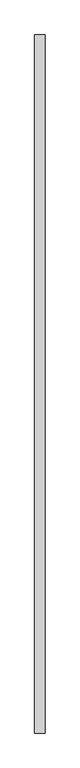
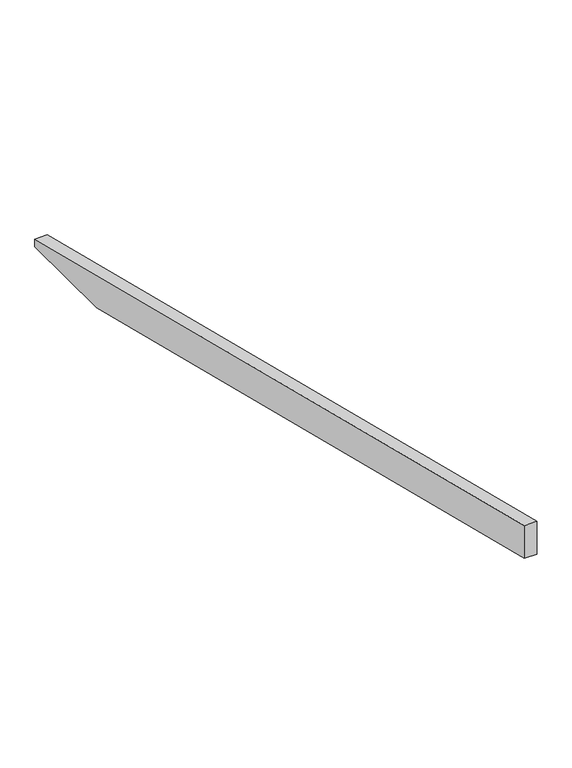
"""IFC4 building model written with IfcOpenShell, lengths in millimetres: proxy geometry, Modelos genéricos 54 : Modelos genéricos 12."""

from ifc_helpers import new_model, si_unit, frame, origin, place, context, project, spatial, polyline, outline, extrude, source, transform, mapped, element, save


def generic_models_b1f8fa7e(model_context):
    return source(origin(), model_context, "Body", "SweptSolid", [
        extrude(outline(polyline([(6078.6238165, 3197.4798401), (6078.6238165, 3160.0), (5567.5767654, 3160.0), (2018.6238165, 4044.8533509), (2018.6238165, 4209.7515316), (6078.6238165, 3197.4798401)])), frame((-5376.5527533, 0.0, 0.0), z_axis=(1.0, 0.0, 0.0), x_axis=(0.0, 1.0, 0.0)), (0.0, 0.0, 1.0), 60.0),
    ])


if __name__ == "__main__":
    model = new_model("IFC4")
    model_context = context("Model", 3, world=origin())
    ifc_project = project(units=[si_unit("LENGTHUNIT", "METRE", prefix="MILLI")], contexts=[model_context])
    site = spatial("IfcSite", under=ifc_project)
    building = spatial("IfcBuilding", under=site)
    placement = place(None, origin())
    generic_models_shape = generic_models_b1f8fa7e(model_context)
    element("IfcBuildingElementProxy", 1, Name="Modelos genéricos 54 : Modelos genéricos 12", ObjectType="Modelos genéricos 54 : Modelos genéricos 12", at=placement, inside=building, context=model_context, shape_type="MappedRepresentation", body=[
        mapped(generic_models_shape, transform((0.0, 0.0, 0.0), x_axis=(1.0, 0.0, 0.0), y_axis=(0.0, 1.0, 0.0), z_axis=(0.0, 0.0, 1.0))),
    ])
    save(model, "model.ifc")
